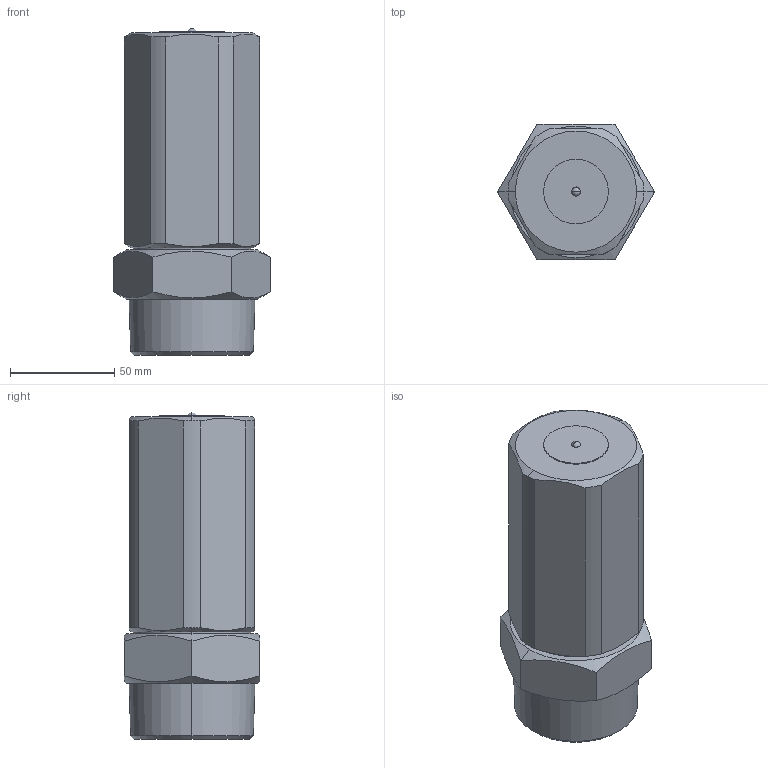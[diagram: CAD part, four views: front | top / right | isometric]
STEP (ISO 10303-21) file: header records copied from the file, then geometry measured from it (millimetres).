
FILE_DESCRIPTION( (''), '2;1');
FILE_NAME ('PC1027.10420.VB-7　50A_8281.stp','2025-07-29T11:58:50',(''),(''),'spGate 20.6.3 (****-****-****-****)','','');
FILE_SCHEMA (('AUTOMOTIVE_DESIGN'));
Length unit declared in the file: millimetre
Bounding box: 75.06 x 65 x 156.5 mm (x, y, z)
Volume: 477949.6 mm3; surface area: 38367.6 mm2
Topology: 1 solids, 1 shells, 42 faces, 105 edges, 68 vertices
Faces by surface type: plane 18, bspline 12, cylinder 10, sphere 2
Entity records: 2366 total; most frequent: CARTESIAN_POINT 639, ORIENTED_EDGE 206, DIRECTION 160, COLOUR_RGB 146, PRESENTATION_STYLE_ASSIGNMENT 146, STYLED_ITEM 146, EDGE_CURVE 103, DRAUGHTING_PRE_DEFINED_CURVE_FONT 103
